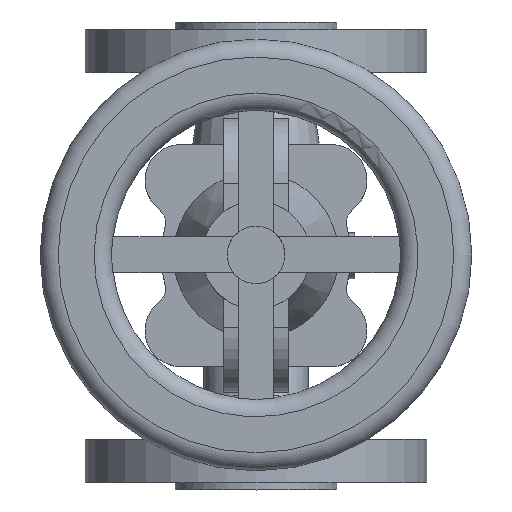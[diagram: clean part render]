
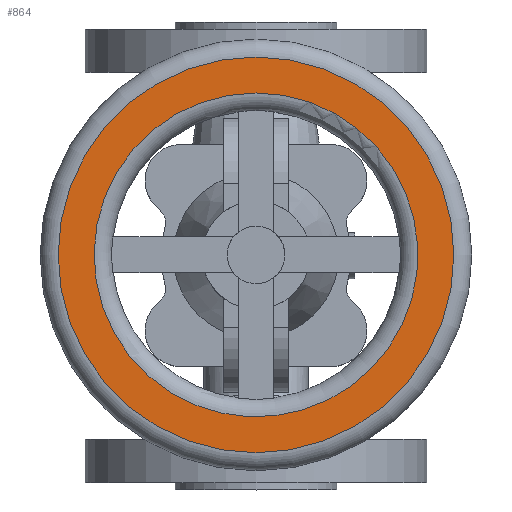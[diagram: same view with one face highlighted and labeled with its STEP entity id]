
A CAD part, top view. The second image highlights one B-rep face of the part: STEP entity #864.
In plain terms, the highlighted planar face has unit normal (0, 0, 1).
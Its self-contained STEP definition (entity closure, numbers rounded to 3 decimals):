
#864=ADVANCED_FACE('',(#2458,#2460),#2462,.T.);
#2458=FACE_BOUND('',#2459,.T.);
#2459=EDGE_LOOP('',(#29090,#29091));
#2460=FACE_BOUND('',#2461,.T.);
#2461=EDGE_LOOP('',(#29092,#29093));
#2462=PLANE('',#2463);
#2463=AXIS2_PLACEMENT_3D('',#2464,#2465,#2466);
#2464=CARTESIAN_POINT('',(0.,0.,175.));
#2465=DIRECTION('',(0.,0.,1.));
#2466=DIRECTION('',(0.,1.,0.));
#29090=ORIENTED_EDGE('',*,*,#36867,.F.);
#29091=ORIENTED_EDGE('',*,*,#36868,.F.);
#29092=ORIENTED_EDGE('',*,*,#36852,.T.);
#29093=ORIENTED_EDGE('',*,*,#36851,.T.);
#36851=EDGE_CURVE('',#37540,#37541,#37542,.T.);
#36852=EDGE_CURVE('',#37541,#37540,#37543,.T.);
#36867=EDGE_CURVE('',#37572,#37573,#37574,.T.);
#36868=EDGE_CURVE('',#37573,#37572,#37575,.T.);
#37540=VERTEX_POINT('',#39378);
#37541=VERTEX_POINT('',#39379);
#37542=CIRCLE('',#39380,45.);
#37543=CIRCLE('',#39384,45.);
#37572=VERTEX_POINT('',#39456);
#37573=VERTEX_POINT('',#39457);
#37574=CIRCLE('',#39458,55.);
#37575=CIRCLE('',#39462,55.);
#39378=CARTESIAN_POINT('',(-29.77,-33.745,175.));
#39379=CARTESIAN_POINT('',(0.,45.,175.));
#39380=AXIS2_PLACEMENT_3D('',#39381,#39382,#39383);
#39381=CARTESIAN_POINT('',(0.,0.,175.));
#39382=DIRECTION('',(0.,0.,-1.));
#39383=DIRECTION('',(-0.662,-0.75,0.));
#39384=AXIS2_PLACEMENT_3D('',#39385,#39386,#39387);
#39385=CARTESIAN_POINT('',(0.,0.,175.));
#39386=DIRECTION('',(0.,0.,-1.));
#39387=DIRECTION('',(0.,1.,0.));
#39456=CARTESIAN_POINT('',(0.,-55.,175.));
#39457=CARTESIAN_POINT('',(0.,55.,175.));
#39458=AXIS2_PLACEMENT_3D('',#39459,#39460,#39461);
#39459=CARTESIAN_POINT('',(0.,0.,175.));
#39460=DIRECTION('',(0.,0.,-1.));
#39461=DIRECTION('',(0.,-1.,0.));
#39462=AXIS2_PLACEMENT_3D('',#39463,#39464,#39465);
#39463=CARTESIAN_POINT('',(0.,0.,175.));
#39464=DIRECTION('',(0.,0.,-1.));
#39465=DIRECTION('',(0.,1.,0.));
